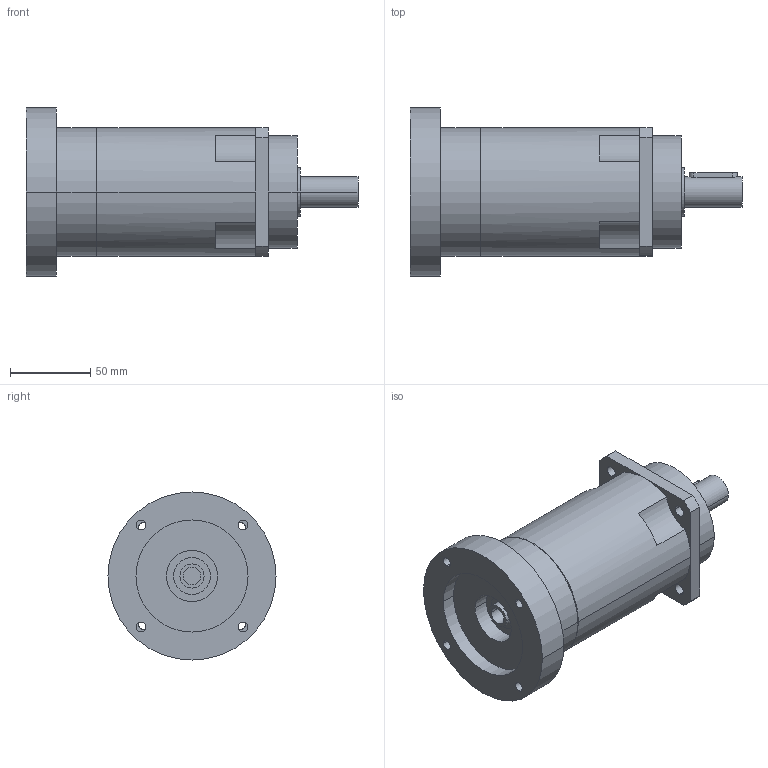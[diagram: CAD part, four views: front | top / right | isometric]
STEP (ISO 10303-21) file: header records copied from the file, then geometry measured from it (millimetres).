
FILE_DESCRIPTION(('CoCreate Modeling STEP Export'),'2;1');
FILE_NAME('GPR100_ig-48-64-80-100-120-144-180-216_19_B5_11_P14.stp','2014-08-26T11:53:28',(''),(''),'CoCreate Modeling STEP processor for AP214 (Solid Model)','CoCreate Modeling 16.00C 25-Feb-2009 (C) Parametric Technology GmbH','');
FILE_SCHEMA(('AUTOMOTIVE_DESIGN { 1 0 10303 214 1 1 1 1 }'));
Length unit declared in the file: millimetre
Products named in the file (2): GPR100_ig-48-64-80-100-120-144-180-216_19_B5_11_P14
Assembly tree (1 placements, depth 2):
  GPR100_ig-48-64-80-100-120-144-180-216_19_B5_11_P14
    GPR100_ig-48-64-80-100-120-144-180-216_19_B5_11_P14
Bounding box: 207.4 x 105 x 105 mm (x, y, z)
Volume: 865160.3 mm3; surface area: 73412.8 mm2
Topology: 1 solids, 1 shells, 95 faces, 262 edges, 182 vertices
Faces by surface type: cylinder 58, plane 31, cone 6
Entity records: 2700 total; most frequent: ORIENTED_EDGE 520, CARTESIAN_POINT 484, DIRECTION 386, EDGE_CURVE 260, VERTEX_POINT 182, AXIS2_PLACEMENT_3D 148, EDGE_LOOP 126, FACE_OUTER_BOUND 95
